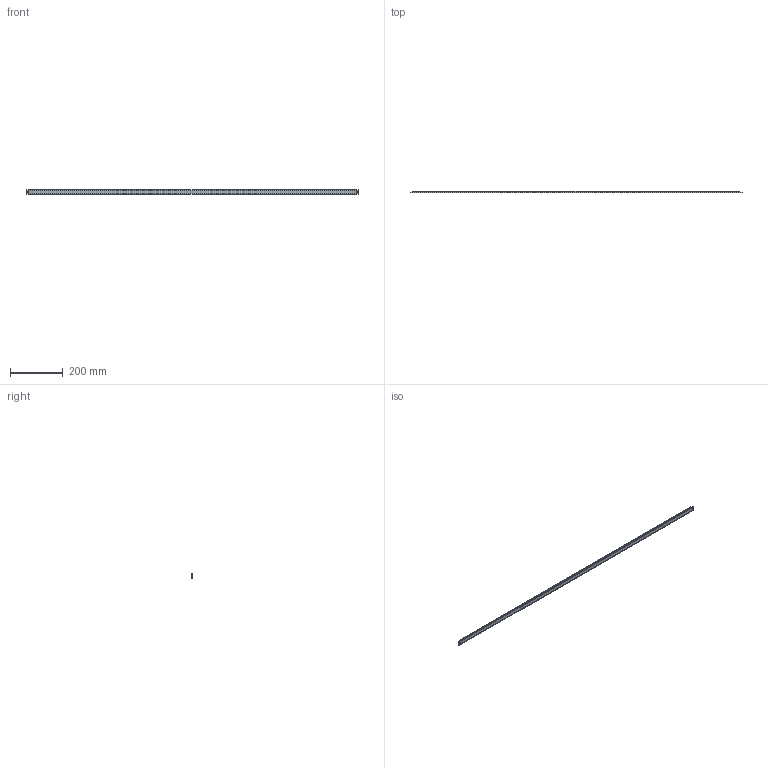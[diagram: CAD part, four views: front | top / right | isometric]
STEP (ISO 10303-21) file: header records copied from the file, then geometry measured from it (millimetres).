
FILE_DESCRIPTION (( 'STEP AP214' ), '1' );
FILE_NAME ('SAScale_exposed.ScaleLneght1260.STEP', '2026-03-10T09:14:12', ( '' ), ( '' ), 'SwSTEP 2.0', 'SolidWorks 2024', '' );
FILE_SCHEMA (( 'AUTOMOTIVE_DESIGN' ));
Length unit declared in the file: millimetre
Products named in the file (1): SAScale_exposed.ScaleLneght1260
Bounding box: 1260 x 6 x 18 mm (x, y, z)
Volume: 124707.9 mm3; surface area: 108046.5 mm2
Topology: 2 solids, 2 shells, 52 faces, 141 edges, 94 vertices
Faces by surface type: plane 37, cylinder 15
Entity records: 2247 total; most frequent: CARTESIAN_POINT 288, ORIENTED_EDGE 282, DIRECTION 277, EDGE_CURVE 141, VECTOR 111, LINE 111, VERTEX_POINT 94, AXIS2_PLACEMENT_3D 83
